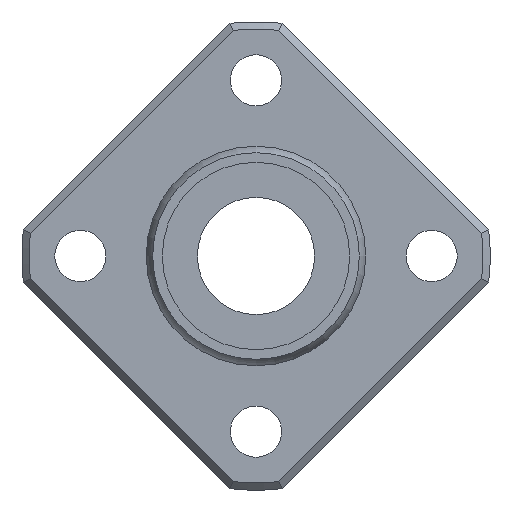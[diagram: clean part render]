
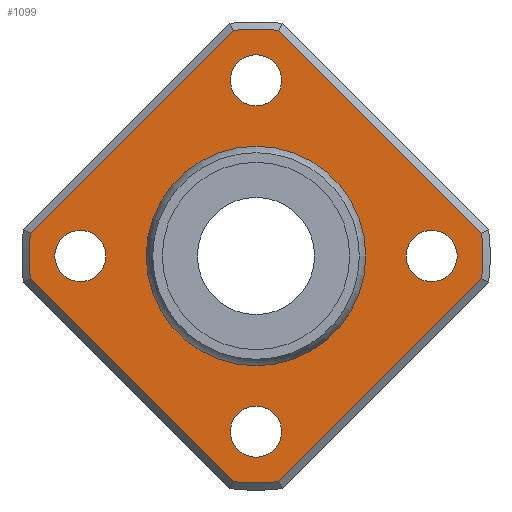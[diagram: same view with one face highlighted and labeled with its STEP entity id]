
A CAD part, left-side view. The second image highlights one B-rep face of the part: STEP entity #1099.
In plain terms, the highlighted planar face has unit normal (-1, 0, 0).
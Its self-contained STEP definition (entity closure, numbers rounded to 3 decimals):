
#675=CARTESIAN_POINT('',(-17.5,15.422,1.548));
#676=VERTEX_POINT('',#675);
#684=CARTESIAN_POINT('',(-17.5,1.548,15.422));
#685=VERTEX_POINT('',#684);
#686=CARTESIAN_POINT('',(-17.5,15.422,1.548));
#687=DIRECTION('',(0.0,-0.707,0.707));
#688=VECTOR('',#687,19.621);
#689=LINE('',#686,#688);
#690=EDGE_CURVE('',#676,#685,#689,.T.);
#717=CARTESIAN_POINT('',(-17.5,-1.548,15.422));
#718=VERTEX_POINT('',#717);
#719=CARTESIAN_POINT('',(-17.5,0.0,0.0));
#720=DIRECTION('',(1.0,0.0,0.0));
#721=DIRECTION('',(0.0,0.0,1.0));
#722=AXIS2_PLACEMENT_3D('',#719,#720,#721);
#723=CIRCLE('',#722,15.5);
#724=EDGE_CURVE('',#685,#718,#723,.T.);
#750=CARTESIAN_POINT('',(-17.5,-15.422,1.548));
#751=VERTEX_POINT('',#750);
#752=CARTESIAN_POINT('',(-17.5,-1.548,15.422));
#753=DIRECTION('',(0.0,-0.707,-0.707));
#754=VECTOR('',#753,19.621);
#755=LINE('',#752,#754);
#756=EDGE_CURVE('',#718,#751,#755,.T.);
#783=CARTESIAN_POINT('',(-17.5,-15.422,-1.548));
#784=VERTEX_POINT('',#783);
#785=CARTESIAN_POINT('',(-17.5,0.0,0.0));
#786=DIRECTION('',(1.0,0.0,0.0));
#787=DIRECTION('',(0.0,0.0,1.0));
#788=AXIS2_PLACEMENT_3D('',#785,#786,#787);
#789=CIRCLE('',#788,15.5);
#790=EDGE_CURVE('',#751,#784,#789,.T.);
#816=CARTESIAN_POINT('',(-17.5,-1.548,-15.422));
#817=VERTEX_POINT('',#816);
#818=CARTESIAN_POINT('',(-17.5,-15.422,-1.548));
#819=DIRECTION('',(0.0,0.707,-0.707));
#820=VECTOR('',#819,19.621);
#821=LINE('',#818,#820);
#822=EDGE_CURVE('',#784,#817,#821,.T.);
#849=CARTESIAN_POINT('',(-17.5,1.548,-15.422));
#850=VERTEX_POINT('',#849);
#851=CARTESIAN_POINT('',(-17.5,0.0,0.0));
#852=DIRECTION('',(1.0,0.0,0.0));
#853=DIRECTION('',(0.0,0.0,-1.0));
#854=AXIS2_PLACEMENT_3D('',#851,#852,#853);
#855=CIRCLE('',#854,15.5);
#856=EDGE_CURVE('',#817,#850,#855,.T.);
#882=CARTESIAN_POINT('',(-17.5,15.422,-1.548));
#883=VERTEX_POINT('',#882);
#884=CARTESIAN_POINT('',(-17.5,1.548,-15.422));
#885=DIRECTION('',(0.0,0.707,0.707));
#886=VECTOR('',#885,19.621);
#887=LINE('',#884,#886);
#888=EDGE_CURVE('',#850,#883,#887,.T.);
#913=CARTESIAN_POINT('',(-17.5,0.0,0.0));
#914=DIRECTION('',(1.0,0.0,0.0));
#915=DIRECTION('',(0.0,0.0,1.0));
#916=AXIS2_PLACEMENT_3D('',#913,#914,#915);
#917=CIRCLE('',#916,15.5);
#918=EDGE_CURVE('',#883,#676,#917,.T.);
#1029=CARTESIAN_POINT('',(-17.5,0.0,11.655));
#1030=DIRECTION('',(-1.0,0.0,0.0));
#1031=DIRECTION('',(0.0,0.0,1.0));
#1032=AXIS2_PLACEMENT_3D('',#1029,#1030,#1031);
#1033=PLANE('',#1032);
#1034=ORIENTED_EDGE('',*,*,#690,.F.);
#1035=ORIENTED_EDGE('',*,*,#918,.F.);
#1036=ORIENTED_EDGE('',*,*,#888,.F.);
#1037=ORIENTED_EDGE('',*,*,#856,.F.);
#1038=ORIENTED_EDGE('',*,*,#822,.F.);
#1039=ORIENTED_EDGE('',*,*,#790,.F.);
#1040=ORIENTED_EDGE('',*,*,#756,.F.);
#1041=ORIENTED_EDGE('',*,*,#724,.F.);
#1042=EDGE_LOOP('',(#1034,#1035,#1036,#1037,#1038,#1039,#1040,#1041));
#1043=FACE_OUTER_BOUND('',#1042,.T.);
#1044=CARTESIAN_POINT('',(-17.5,0.0,7.309));
#1045=VERTEX_POINT('',#1044);
#1046=CARTESIAN_POINT('',(-17.5,0.0,0.0));
#1047=DIRECTION('',(-1.0,0.0,0.0));
#1048=DIRECTION('',(0.0,0.0,1.0));
#1049=AXIS2_PLACEMENT_3D('',#1046,#1047,#1048);
#1050=CIRCLE('',#1049,7.309);
#1051=EDGE_CURVE('',#1045,#1045,#1050,.T.);
#1052=ORIENTED_EDGE('',*,*,#1051,.F.);
#1053=EDGE_LOOP('',(#1052));
#1054=FACE_BOUND('',#1053,.T.);
#1055=CARTESIAN_POINT('',(-17.5,10.25,0.));
#1056=VERTEX_POINT('',#1055);
#1057=CARTESIAN_POINT('',(-17.5,12.,0.));
#1058=DIRECTION('',(1.0,0.0,0.0));
#1059=DIRECTION('',(0.0,1.0,0.0));
#1060=AXIS2_PLACEMENT_3D('',#1057,#1058,#1059);
#1061=CIRCLE('',#1060,1.75);
#1062=EDGE_CURVE('',#1056,#1056,#1061,.T.);
#1063=ORIENTED_EDGE('',*,*,#1062,.T.);
#1064=EDGE_LOOP('',(#1063));
#1065=FACE_BOUND('',#1064,.T.);
#1066=CARTESIAN_POINT('',(-17.5,-13.75,0.));
#1067=VERTEX_POINT('',#1066);
#1068=CARTESIAN_POINT('',(-17.5,-12.,0.0));
#1069=DIRECTION('',(1.0,0.0,0.0));
#1070=DIRECTION('',(0.0,1.0,0.0));
#1071=AXIS2_PLACEMENT_3D('',#1068,#1069,#1070);
#1072=CIRCLE('',#1071,1.75);
#1073=EDGE_CURVE('',#1067,#1067,#1072,.T.);
#1074=ORIENTED_EDGE('',*,*,#1073,.T.);
#1075=EDGE_LOOP('',(#1074));
#1076=FACE_BOUND('',#1075,.T.);
#1077=CARTESIAN_POINT('',(-17.5,-1.75,12.));
#1078=VERTEX_POINT('',#1077);
#1079=CARTESIAN_POINT('',(-17.5,0.,12.));
#1080=DIRECTION('',(1.0,0.0,0.0));
#1081=DIRECTION('',(0.0,1.0,0.0));
#1082=AXIS2_PLACEMENT_3D('',#1079,#1080,#1081);
#1083=CIRCLE('',#1082,1.75);
#1084=EDGE_CURVE('',#1078,#1078,#1083,.T.);
#1085=ORIENTED_EDGE('',*,*,#1084,.T.);
#1086=EDGE_LOOP('',(#1085));
#1087=FACE_BOUND('',#1086,.T.);
#1088=CARTESIAN_POINT('',(-17.5,-1.75,-12.));
#1089=VERTEX_POINT('',#1088);
#1090=CARTESIAN_POINT('',(-17.5,0.,-12.));
#1091=DIRECTION('',(1.0,0.0,0.0));
#1092=DIRECTION('',(0.0,1.0,0.0));
#1093=AXIS2_PLACEMENT_3D('',#1090,#1091,#1092);
#1094=CIRCLE('',#1093,1.75);
#1095=EDGE_CURVE('',#1089,#1089,#1094,.T.);
#1096=ORIENTED_EDGE('',*,*,#1095,.T.);
#1097=EDGE_LOOP('',(#1096));
#1098=FACE_BOUND('',#1097,.T.);
#1099=ADVANCED_FACE('',(#1043,#1054,#1065,#1076,#1087,#1098),#1033,.T.);
